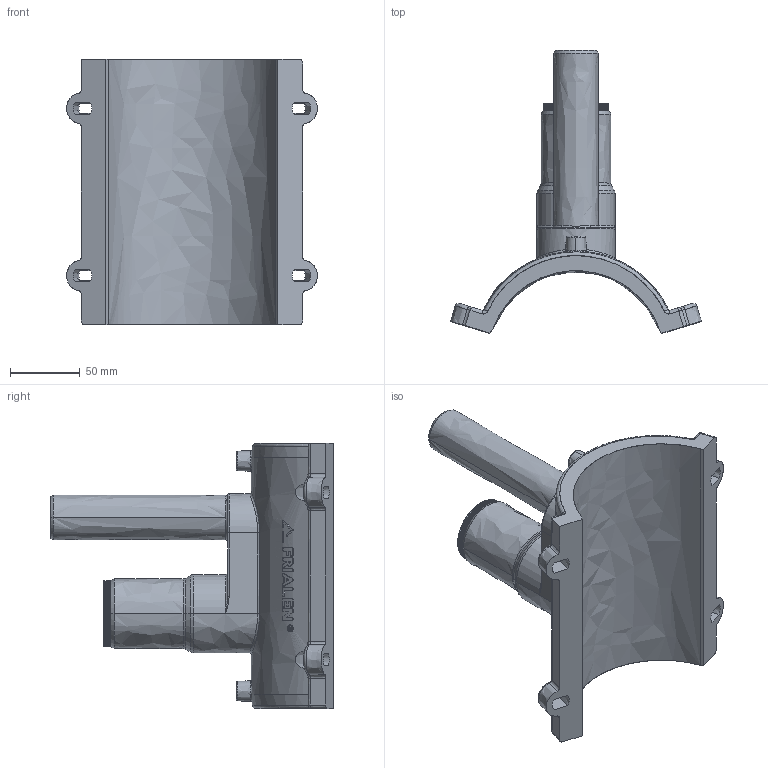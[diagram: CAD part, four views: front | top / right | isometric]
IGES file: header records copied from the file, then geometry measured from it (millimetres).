
Start section:  PTC IGES file: dap_d125_32_01.igs
Global section: file name: dap_d125_32_01.igs; native system: Pro/ENGINEER by Parametric Technology Corporation; preprocessor: 2011490; author: mtunjic; organization: Unknown; date: 20130909.082949; units: millimetre
Bounding box: 179.84 x 202.75 x 190 mm (x, y, z)
Surface area: 129645 mm2 (no closed solid volume)
Topology: 0 solids, 0 shells, 802 faces, 4534 edges, 4534 vertices
Faces by surface type: bspline 802
